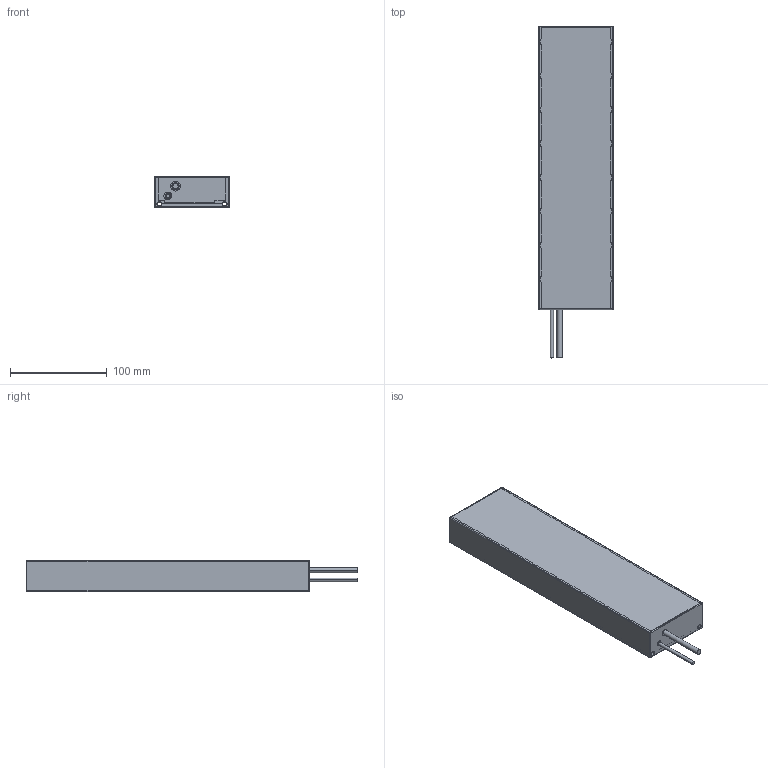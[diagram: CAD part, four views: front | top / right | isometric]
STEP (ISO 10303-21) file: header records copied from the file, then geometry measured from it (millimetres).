
FILE_DESCRIPTION (( 'STEP AP203' ), '1' );
FILE_NAME ('IC76V-15.STEP', '2024-07-23T07:49:50', ( '' ), ( '' ), 'SwSTEP 2.0', 'SolidWorks 2019', '' );
FILE_SCHEMA (( 'CONFIG_CONTROL_DESIGN' ));
Length unit declared in the file: millimetre
Products named in the file (7): 錨璃16^IC76V-15; IC76-恲諷橈埽璃; 錨璃6^IC76V-15; IC76-12桏帣; IC76V-15; IC76-萇擢橈埽璃; 臏褲
Assembly tree (9 placements, depth 2):
  IC76V-15
    臏褲
    IC76-12桏帣  x4
    IC76-萇擢橈埽璃
    IC76-恲諷橈埽璃
    錨璃6^IC76V-15
    錨璃16^IC76V-15
Bounding box: 77 x 342.6 x 32 mm (x, y, z)
Volume: 779112.2 mm3; surface area: 169772.7 mm2
Topology: 10 solids, 10 shells, 418 faces, 1136 edges, 740 vertices
Faces by surface type: cylinder 210, plane 192, cone 8, sphere 8
Entity records: 10699 total; most frequent: CARTESIAN_POINT 1782, DIRECTION 1772, ORIENTED_EDGE 1680, EDGE_CURVE 840, AXIS2_PLACEMENT_3D 634, VERTEX_POINT 548, LINE 504, VECTOR 504
